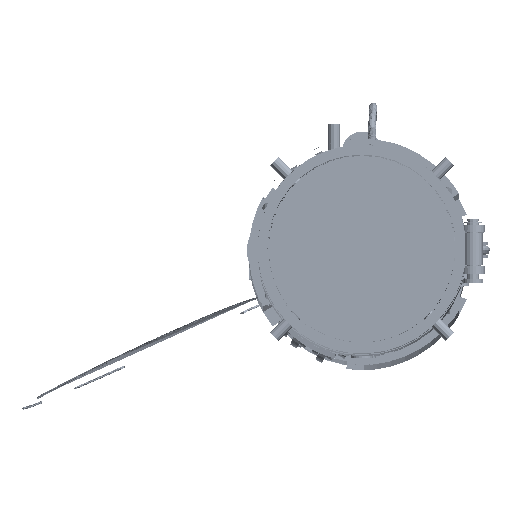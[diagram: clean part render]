
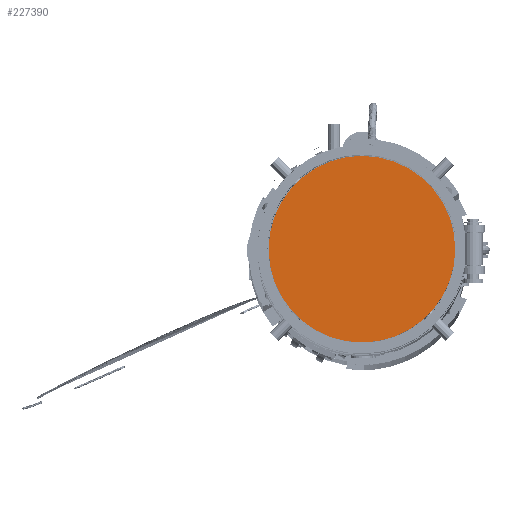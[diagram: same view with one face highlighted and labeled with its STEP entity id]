
A CAD part, top view. The second image highlights one B-rep face of the part: STEP entity #227390.
In plain terms, the highlighted planar face has unit normal (0, 0, 1).
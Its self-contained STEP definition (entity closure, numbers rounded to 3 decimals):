
#225215 = CYLINDRICAL_SURFACE('',#225216,23.5);
#225216 = AXIS2_PLACEMENT_3D('',#225217,#225218,#225219);
#225217 = CARTESIAN_POINT('',(0.,0.,-1.5));
#225218 = DIRECTION('',(0.,0.,1.));
#225219 = DIRECTION('',(1.,0.,-0.));
#225295 = VERTEX_POINT('',#225296);
#225296 = CARTESIAN_POINT('',(23.5,0.,1.5));
#225317 = EDGE_CURVE('',#225295,#225295,#225318,.T.);
#225318 = SURFACE_CURVE('',#225319,(#225324,#225331),.PCURVE_S1.);
#225319 = CIRCLE('',#225320,23.5);
#225320 = AXIS2_PLACEMENT_3D('',#225321,#225322,#225323);
#225321 = CARTESIAN_POINT('',(0.,0.,1.5));
#225322 = DIRECTION('',(0.,0.,1.));
#225323 = DIRECTION('',(1.,0.,-0.));
#225324 = PCURVE('',#225215,#225325);
#225325 = DEFINITIONAL_REPRESENTATION('',(#225326),#225330);
#225326 = LINE('',#225327,#225328);
#225327 = CARTESIAN_POINT('',(0.,3.));
#225328 = VECTOR('',#225329,1.);
#225329 = DIRECTION('',(1.,0.));
#225330 = ( GEOMETRIC_REPRESENTATION_CONTEXT(2) 
PARAMETRIC_REPRESENTATION_CONTEXT() REPRESENTATION_CONTEXT('2D SPACE',''
  ) );
#225331 = PCURVE('',#225332,#225337);
#225332 = PLANE('',#225333);
#225333 = AXIS2_PLACEMENT_3D('',#225334,#225335,#225336);
#225334 = CARTESIAN_POINT('',(0.,0.,1.5));
#225335 = DIRECTION('',(0.,0.,1.));
#225336 = DIRECTION('',(1.,0.,-0.));
#225337 = DEFINITIONAL_REPRESENTATION('',(#225338),#225342);
#225338 = CIRCLE('',#225339,23.5);
#225339 = AXIS2_PLACEMENT_2D('',#225340,#225341);
#225340 = CARTESIAN_POINT('',(0.,0.));
#225341 = DIRECTION('',(1.,0.));
#225342 = ( GEOMETRIC_REPRESENTATION_CONTEXT(2) 
PARAMETRIC_REPRESENTATION_CONTEXT() REPRESENTATION_CONTEXT('2D SPACE',''
  ) );
#227390 = ADVANCED_FACE('',(#227391),#225332,.T.);
#227391 = FACE_BOUND('',#227392,.T.);
#227392 = EDGE_LOOP('',(#227393));
#227393 = ORIENTED_EDGE('',*,*,#225317,.T.);
